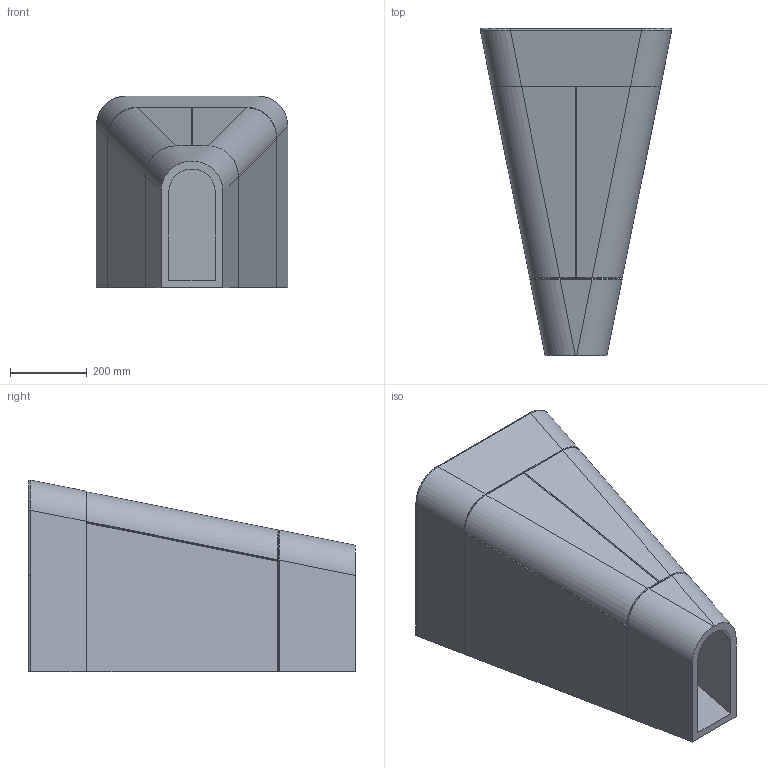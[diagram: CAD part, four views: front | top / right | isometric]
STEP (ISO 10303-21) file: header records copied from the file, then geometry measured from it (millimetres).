
FILE_DESCRIPTION (( 'STEP AP203' ), '1' );
FILE_NAME ('MBB50.STEP', '2021-10-21T08:46:30', ( '' ), ( '' ), 'SwSTEP 2.0', 'SolidWorks 2021', '' );
FILE_SCHEMA (( 'CONFIG_CONTROL_DESIGN' ));
Length unit declared in the file: millimetre
Products named in the file (7): MBB50; BUILD50 LAVABO; SIFONE LAVABO SOSPESO; ANTASX BUILD50; SCOCCA mobBUILD50; BUILD50 base^AssBUILD mob50; ANTADX BUILD50
Assembly tree (6 placements, depth 2):
  MBB50
    BUILD50 LAVABO
    SCOCCA mobBUILD50
    SIFONE LAVABO SOSPESO
    BUILD50 base^AssBUILD mob50
    ANTADX BUILD50
    ANTASX BUILD50
Bounding box: 498.24 x 850 x 499.12 mm (x, y, z)
Volume: 37689349.3 mm3; surface area: 3501324.2 mm2
Topology: 6 solids, 10 shells, 336 faces, 832 edges, 515 vertices
Faces by surface type: plane 115, cylinder 106, bspline 66, torus 31, sphere 15, cone 3
Full cylindrical faces by diameter (mm): 20 x1, 30 x2, 35 x1, 43 x1, 45 x2, 46 x1, 48 x1, 50 x3, 60 x1, 66 x1, 78 x1
Entity records: 90209 total; most frequent: CARTESIAN_POINT 82395, ORIENTED_EDGE 1560, DIRECTION 1296, EDGE_CURVE 780, VERTEX_POINT 505, AXIS2_PLACEMENT_3D 473, EDGE_LOOP 389, FACE_OUTER_BOUND 366
